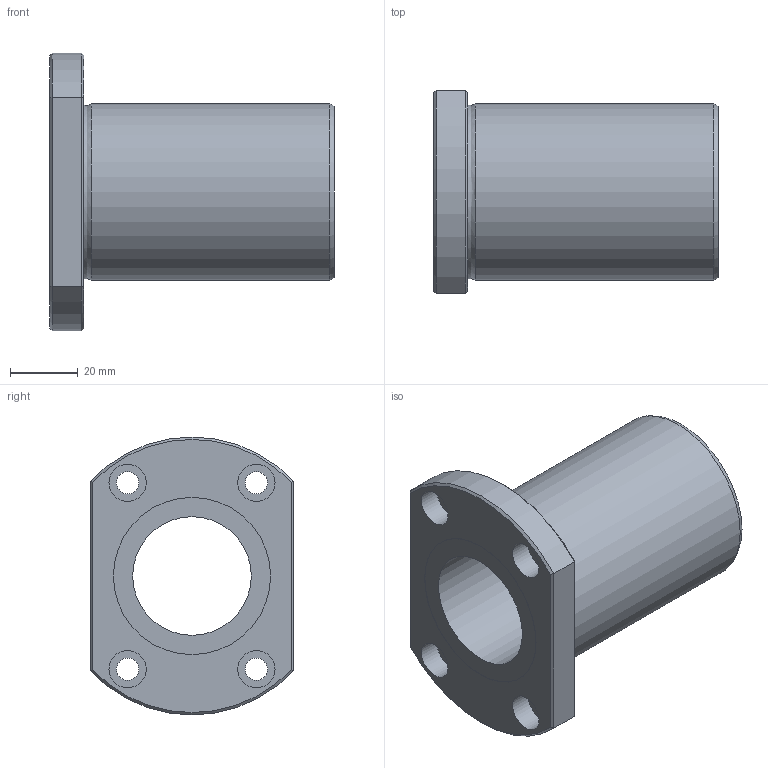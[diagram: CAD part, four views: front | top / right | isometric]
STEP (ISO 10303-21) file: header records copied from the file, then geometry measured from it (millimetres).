
FILE_DESCRIPTION((''),'2;1');
FILE_NAME('C:\Documents and Settings\土屋\My Documents\土屋移動用フォルダ\製品 (図面)\カタログ用3D\変換ファイル\OZAK_3D-CAD(STEP形式)\Part1.-Linear Bearings_ﾘﾆｱﾍﾞｱﾘﾝｸﾞ\09_Maintenance Free_ﾒｲﾝﾃﾅﾝｽﾌﾘｰ\L2017-09-21T13:13:55','2017-09-21T13:13:55',('y'),(''),'Autodesk Inventor 11','Autodesk Inventor 11','');
FILE_SCHEMA(('AUTOMOTIVE_DESIGN { 1 0 10303 214 1 1 1 1 }'));
Length unit declared in the file: millimetre
Products named in the file (1): LFT-MF
Bounding box: 84 x 60 x 82 mm (x, y, z)
Volume: 117272.9 mm3; surface area: 31429.6 mm2
Topology: 1 solids, 1 shells, 35 faces, 68 edges, 42 vertices
Faces by surface type: plane 15, cylinder 14, cone 4, torus 1, bspline 1
Full cylindrical faces by diameter (mm): 6.6 x4, 11 x4, 35 x1, 46.4 x2, 52 x1
Entity records: 935 total; most frequent: CARTESIAN_POINT 218, DIRECTION 150, ORIENTED_EDGE 108, AXIS2_PLACEMENT_3D 69, EDGE_LOOP 66, EDGE_CURVE 54, VERTEX_POINT 42, FACE_OUTER_BOUND 35
